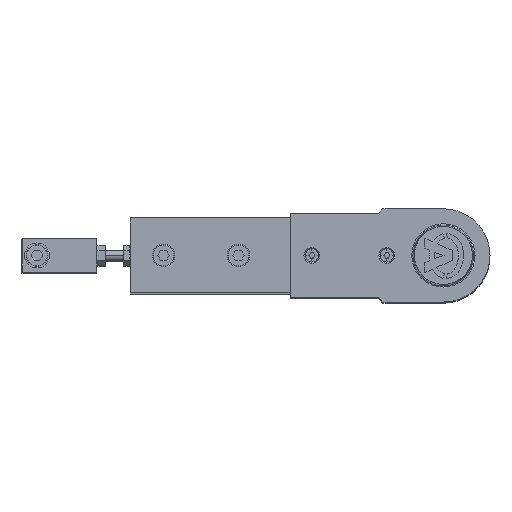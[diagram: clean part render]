
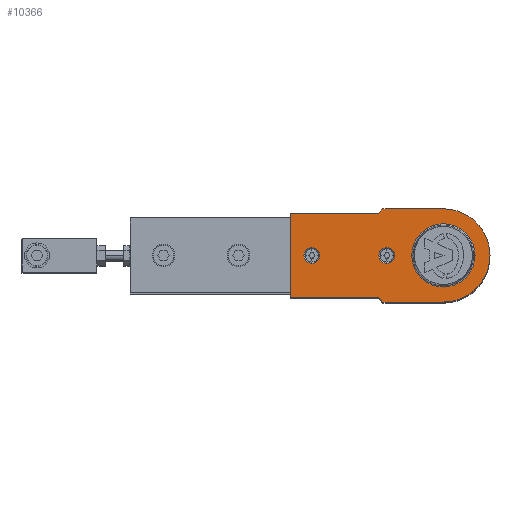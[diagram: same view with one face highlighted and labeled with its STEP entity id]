
A CAD part, top view. The second image highlights one B-rep face of the part: STEP entity #10366.
In plain terms, the highlighted planar face has unit normal (0, 0, 1).
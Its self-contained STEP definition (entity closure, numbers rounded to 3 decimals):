
#139 = DIRECTION ( 'NONE',  ( 1., 0., 0. ) ) ;
#333 = EDGE_LOOP ( 'NONE', ( #12236, #4872, #2936, #3333, #1329, #5219, #2343, #9370, #12649 ) ) ;
#343 = FACE_BOUND ( 'NONE', #1784, .T. ) ;
#417 = DIRECTION ( 'NONE',  ( -0.707, 0.707, 0. ) ) ;
#497 = VECTOR ( 'NONE', #11602, 1000. ) ;
#585 = EDGE_CURVE ( 'NONE', #6324, #1546, #3112, .T. ) ;
#618 = DIRECTION ( 'NONE',  ( 0.707, 0.707, 0. ) ) ;
#627 = EDGE_LOOP ( 'NONE', ( #13554, #13788 ) ) ;
#773 = EDGE_LOOP ( 'NONE', ( #12135, #8326 ) ) ;
#978 = DIRECTION ( 'NONE',  ( 1., 0., 0. ) ) ;
#988 = AXIS2_PLACEMENT_3D ( 'NONE', #12523, #5994, #13639 ) ;
#1077 = AXIS2_PLACEMENT_3D ( 'NONE', #13226, #6686, #139 ) ;
#1098 = VECTOR ( 'NONE', #2962, 1000. ) ;
#1226 = CARTESIAN_POINT ( 'NONE',  ( 29.3, 0., 37. ) ) ;
#1329 = ORIENTED_EDGE ( 'NONE', *, *, #8126, .T. ) ;
#1386 = VECTOR ( 'NONE', #12813, 1000. ) ;
#1444 = CIRCLE ( 'NONE', #1077, 4.7 ) ;
#1546 = VERTEX_POINT ( 'NONE', #11777 ) ;
#1784 = EDGE_LOOP ( 'NONE', ( #3425, #6683 ) ) ;
#1815 = DIRECTION ( 'NONE',  ( 0., 0., -1. ) ) ;
#1858 = CARTESIAN_POINT ( 'NONE',  ( 92., -25.25, 37. ) ) ;
#1860 = CARTESIAN_POINT ( 'NONE',  ( 0., -28., 37. ) ) ;
#1871 = DIRECTION ( 'NONE',  ( 0., 0., -1. ) ) ;
#1956 = CARTESIAN_POINT ( 'NONE',  ( 92., -25.25, 37. ) ) ;
#1982 = CARTESIAN_POINT ( 'NONE',  ( 18.996, 0., 37. ) ) ;
#2231 = CARTESIAN_POINT ( 'NONE',  ( 39., 25.25, 37. ) ) ;
#2259 = VERTEX_POINT ( 'NONE', #11173 ) ;
#2277 = VERTEX_POINT ( 'NONE', #11535 ) ;
#2343 = ORIENTED_EDGE ( 'NONE', *, *, #4336, .T. ) ;
#2367 = DIRECTION ( 'NONE',  ( 0., 1., 0. ) ) ;
#2428 = VECTOR ( 'NONE', #2367, 1000. ) ;
#2617 = CIRCLE ( 'NONE', #10219, 28. ) ;
#2832 = CARTESIAN_POINT ( 'NONE',  ( 36.25, -28., 37. ) ) ;
#2919 = EDGE_CURVE ( 'NONE', #5226, #8441, #13845, .T. ) ;
#2936 = ORIENTED_EDGE ( 'NONE', *, *, #12599, .T. ) ;
#2962 = DIRECTION ( 'NONE',  ( 1., 0., 0. ) ) ;
#3042 = CARTESIAN_POINT ( 'NONE',  ( 79., 0., 37. ) ) ;
#3112 = LINE ( 'NONE', #12181, #2428 ) ;
#3333 = ORIENTED_EDGE ( 'NONE', *, *, #13063, .T. ) ;
#3425 = ORIENTED_EDGE ( 'NONE', *, *, #2919, .F. ) ;
#3664 = EDGE_CURVE ( 'NONE', #2259, #7899, #11425, .T. ) ;
#4141 = DIRECTION ( 'NONE',  ( 1., 0., 0. ) ) ;
#4256 = VECTOR ( 'NONE', #9565, 1000. ) ;
#4280 = VERTEX_POINT ( 'NONE', #8382 ) ;
#4336 = EDGE_CURVE ( 'NONE', #11619, #6324, #7142, .T. ) ;
#4573 = DIRECTION ( 'NONE',  ( 0., 0., 1. ) ) ;
#4599 = CARTESIAN_POINT ( 'NONE',  ( 38.7, 0., 37. ) ) ;
#4607 = AXIS2_PLACEMENT_3D ( 'NONE', #11518, #4986, #12600 ) ;
#4633 = LINE ( 'NONE', #13914, #1386 ) ;
#4872 = ORIENTED_EDGE ( 'NONE', *, *, #3664, .T. ) ;
#4925 = FACE_OUTER_BOUND ( 'NONE', #333, .T. ) ;
#4986 = DIRECTION ( 'NONE',  ( 0., 0., 1. ) ) ;
#5007 = AXIS2_PLACEMENT_3D ( 'NONE', #3042, #10658, #4141 ) ;
#5203 = DIRECTION ( 'NONE',  ( 0., 0., 1. ) ) ;
#5219 = ORIENTED_EDGE ( 'NONE', *, *, #9519, .T. ) ;
#5226 = VERTEX_POINT ( 'NONE', #4599 ) ;
#5649 = EDGE_CURVE ( 'NONE', #8441, #5226, #13088, .T. ) ;
#5994 = DIRECTION ( 'NONE',  ( 0., 0., 1. ) ) ;
#6144 = AXIS2_PLACEMENT_3D ( 'NONE', #8328, #1815, #9416 ) ;
#6324 = VERTEX_POINT ( 'NONE', #1858 ) ;
#6413 = CARTESIAN_POINT ( 'NONE',  ( 0., 0., 37. ) ) ;
#6683 = ORIENTED_EDGE ( 'NONE', *, *, #5649, .F. ) ;
#6686 = DIRECTION ( 'NONE',  ( 0., 0., 1. ) ) ;
#6992 = VERTEX_POINT ( 'NONE', #1982 ) ;
#7052 = CIRCLE ( 'NONE', #988, 28. ) ;
#7073 = VERTEX_POINT ( 'NONE', #12987 ) ;
#7142 = LINE ( 'NONE', #1956, #4256 ) ;
#7383 = EDGE_CURVE ( 'NONE', #8381, #2259, #12536, .T. ) ;
#7417 = AXIS2_PLACEMENT_3D ( 'NONE', #8388, #1871, #9479 ) ;
#7509 = DIRECTION ( 'NONE',  ( 0., 0., 1. ) ) ;
#7554 = EDGE_CURVE ( 'NONE', #6992, #11897, #7936, .T. ) ;
#7810 = CARTESIAN_POINT ( 'NONE',  ( 0., 28., 37. ) ) ;
#7899 = VERTEX_POINT ( 'NONE', #7810 ) ;
#7936 = CIRCLE ( 'NONE', #7417, 18.996 ) ;
#8004 = VERTEX_POINT ( 'NONE', #13634 ) ;
#8085 = EDGE_CURVE ( 'NONE', #11897, #6992, #10489, .T. ) ;
#8126 = EDGE_CURVE ( 'NONE', #7073, #10090, #12696, .T. ) ;
#8326 = ORIENTED_EDGE ( 'NONE', *, *, #11594, .F. ) ;
#8328 = CARTESIAN_POINT ( 'NONE',  ( 0., 0., 37. ) ) ;
#8381 = VERTEX_POINT ( 'NONE', #2231 ) ;
#8382 = CARTESIAN_POINT ( 'NONE',  ( 74.3, 0., 37. ) ) ;
#8388 = CARTESIAN_POINT ( 'NONE',  ( 0., 0., 37. ) ) ;
#8441 = VERTEX_POINT ( 'NONE', #1226 ) ;
#9046 = FACE_BOUND ( 'NONE', #627, .T. ) ;
#9234 = LINE ( 'NONE', #2832, #12157 ) ;
#9370 = ORIENTED_EDGE ( 'NONE', *, *, #585, .T. ) ;
#9389 = FACE_BOUND ( 'NONE', #773, .T. ) ;
#9416 = DIRECTION ( 'NONE',  ( 1., 0., 0. ) ) ;
#9479 = DIRECTION ( 'NONE',  ( 1., 0., 0. ) ) ;
#9519 = EDGE_CURVE ( 'NONE', #10090, #11619, #9234, .T. ) ;
#9565 = DIRECTION ( 'NONE',  ( 1., 0., 0. ) ) ;
#9640 = VECTOR ( 'NONE', #417, 1000. ) ;
#9813 = AXIS2_PLACEMENT_3D ( 'NONE', #6413, #7509, #978 ) ;
#10090 = VERTEX_POINT ( 'NONE', #11379 ) ;
#10160 = CARTESIAN_POINT ( 'NONE',  ( 36.25, 28., 37. ) ) ;
#10217 = CARTESIAN_POINT ( 'NONE',  ( -18.996, 0., 37. ) ) ;
#10219 = AXIS2_PLACEMENT_3D ( 'NONE', #11088, #4573, #12196 ) ;
#10277 = EDGE_CURVE ( 'NONE', #1546, #8381, #4633, .T. ) ;
#10366 = ADVANCED_FACE ( 'NONE', ( #9046, #343, #9389, #4925 ), #12953, .T. ) ;
#10489 = CIRCLE ( 'NONE', #6144, 18.996 ) ;
#10658 = DIRECTION ( 'NONE',  ( 0., 0., 1. ) ) ;
#11088 = CARTESIAN_POINT ( 'NONE',  ( 0., 0., 37. ) ) ;
#11173 = CARTESIAN_POINT ( 'NONE',  ( 36.25, 28., 37. ) ) ;
#11379 = CARTESIAN_POINT ( 'NONE',  ( 36.25, -28., 37. ) ) ;
#11425 = LINE ( 'NONE', #12681, #497 ) ;
#11518 = CARTESIAN_POINT ( 'NONE',  ( 34., 0., 37. ) ) ;
#11535 = CARTESIAN_POINT ( 'NONE',  ( -28., 0., 37. ) ) ;
#11594 = EDGE_CURVE ( 'NONE', #4280, #8004, #12202, .T. ) ;
#11602 = DIRECTION ( 'NONE',  ( -1., 0., 0. ) ) ;
#11619 = VERTEX_POINT ( 'NONE', #12848 ) ;
#11737 = CARTESIAN_POINT ( 'NONE',  ( 34., 0., 37. ) ) ;
#11777 = CARTESIAN_POINT ( 'NONE',  ( 92., 25.25, 37. ) ) ;
#11859 = EDGE_CURVE ( 'NONE', #8004, #4280, #1444, .T. ) ;
#11897 = VERTEX_POINT ( 'NONE', #10217 ) ;
#12135 = ORIENTED_EDGE ( 'NONE', *, *, #11859, .F. ) ;
#12157 = VECTOR ( 'NONE', #618, 1000. ) ;
#12181 = CARTESIAN_POINT ( 'NONE',  ( 92., 25.25, 37. ) ) ;
#12196 = DIRECTION ( 'NONE',  ( 1., 0., 0. ) ) ;
#12202 = CIRCLE ( 'NONE', #5007, 4.7 ) ;
#12236 = ORIENTED_EDGE ( 'NONE', *, *, #7383, .T. ) ;
#12523 = CARTESIAN_POINT ( 'NONE',  ( 0., 0., 37. ) ) ;
#12536 = LINE ( 'NONE', #10160, #9640 ) ;
#12599 = EDGE_CURVE ( 'NONE', #7899, #2277, #7052, .T. ) ;
#12600 = DIRECTION ( 'NONE',  ( 1., 0., 0. ) ) ;
#12649 = ORIENTED_EDGE ( 'NONE', *, *, #10277, .T. ) ;
#12681 = CARTESIAN_POINT ( 'NONE',  ( 0., 28., 37. ) ) ;
#12696 = LINE ( 'NONE', #1860, #1098 ) ;
#12813 = DIRECTION ( 'NONE',  ( -1., 0., 0. ) ) ;
#12829 = DIRECTION ( 'NONE',  ( 1., 0., 0. ) ) ;
#12848 = CARTESIAN_POINT ( 'NONE',  ( 39., -25.25, 37. ) ) ;
#12953 = PLANE ( 'NONE',  #9813 ) ;
#12987 = CARTESIAN_POINT ( 'NONE',  ( 0., -28., 37. ) ) ;
#13063 = EDGE_CURVE ( 'NONE', #2277, #7073, #2617, .T. ) ;
#13088 = CIRCLE ( 'NONE', #13858, 4.7 ) ;
#13226 = CARTESIAN_POINT ( 'NONE',  ( 79., 0., 37. ) ) ;
#13554 = ORIENTED_EDGE ( 'NONE', *, *, #7554, .T. ) ;
#13634 = CARTESIAN_POINT ( 'NONE',  ( 83.7, 0., 37. ) ) ;
#13639 = DIRECTION ( 'NONE',  ( 1., 0., 0. ) ) ;
#13788 = ORIENTED_EDGE ( 'NONE', *, *, #8085, .T. ) ;
#13845 = CIRCLE ( 'NONE', #4607, 4.7 ) ;
#13858 = AXIS2_PLACEMENT_3D ( 'NONE', #11737, #5203, #12829 ) ;
#13914 = CARTESIAN_POINT ( 'NONE',  ( 39., 25.25, 37. ) ) ;
